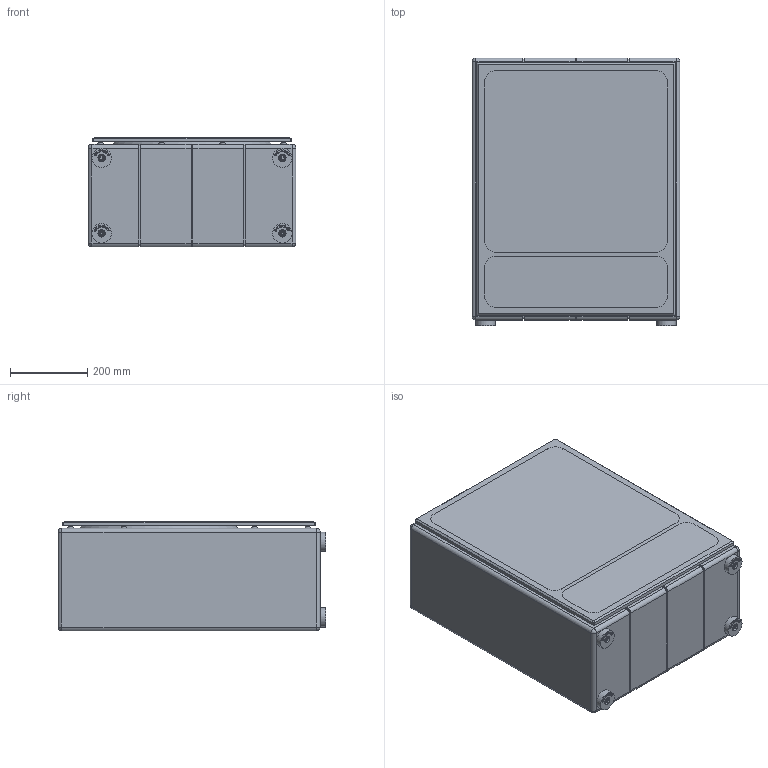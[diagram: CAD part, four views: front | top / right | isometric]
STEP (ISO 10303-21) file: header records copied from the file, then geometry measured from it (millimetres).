
FILE_DESCRIPTION(/* description */ ('','CAx-IF Rec.Pracs.---Representation and Presentation of Product Manufacturing Information (PMI)---4.0---2014-10-13'),/* implementation_level */ '2;1');
FILE_NAME(/* name */ '3D_THE18 SUB PRO PASSIVE SEALED SHALLOW _Public_SI.step',/* time_stamp */ '2025-01-29T11:17:12+01:00',/* author */ (''),/* organization */ (''),/* preprocessor_version */ 'ST-DEVELOPER v20',/* originating_system */ 'Autodesk Translation Framework v13.20.0.188',/* authorisation */ '');
FILE_SCHEMA (('AP242_MANAGED_MODEL_BASED_3D_ENGINEERING_MIM_LF { 1 0 10303 442 1 1 4 }'));
Products named in the file (3): The 18 SUB PRO PASSIVE SEALED SHALLOW; COMBINE_WholeBox; COMBINE_Grille
Assembly tree (2 placements, depth 2):
  The 18 SUB PRO PASSIVE SEALED SHALLOW
    COMBINE_WholeBox
    COMBINE_Grille
Bounding box: 537 x 692 x 283.7 mm (x, y, z)
Volume: 92424905.2 mm3; surface area: 2359958.3 mm2
Topology: 2 solids, 45 shells, 3584 faces, 8928 edges, 5647 vertices
Faces by surface type: plane 1420, bspline 1181, cylinder 803, cone 128, torus 39, sphere 13
Full cylindrical faces by diameter (mm): 2.9 x36, 3.5 x4, 4 x16, 6.8 x12, 7 x14, 7.3 x4, 8 x44, 8.5 x4, 10 x28, 10.2 x14, 10.3 x14, 11 x14, 13.332 x8, 14 x14, 16 x4, 19 x4, 50 x4, 179 x1, 180 x1, 320.243 x2, 332.921 x1, 416.627 x1, 420 x1, 462.5 x1
Entity records: 188355 total; most frequent: CARTESIAN_POINT 107504, ORIENTED_EDGE 17854, DIRECTION 14779, EDGE_CURVE 8927, VERTEX_POINT 5647, AXIS2_PLACEMENT_3D 5086, LINE 4607, VECTOR 4607
